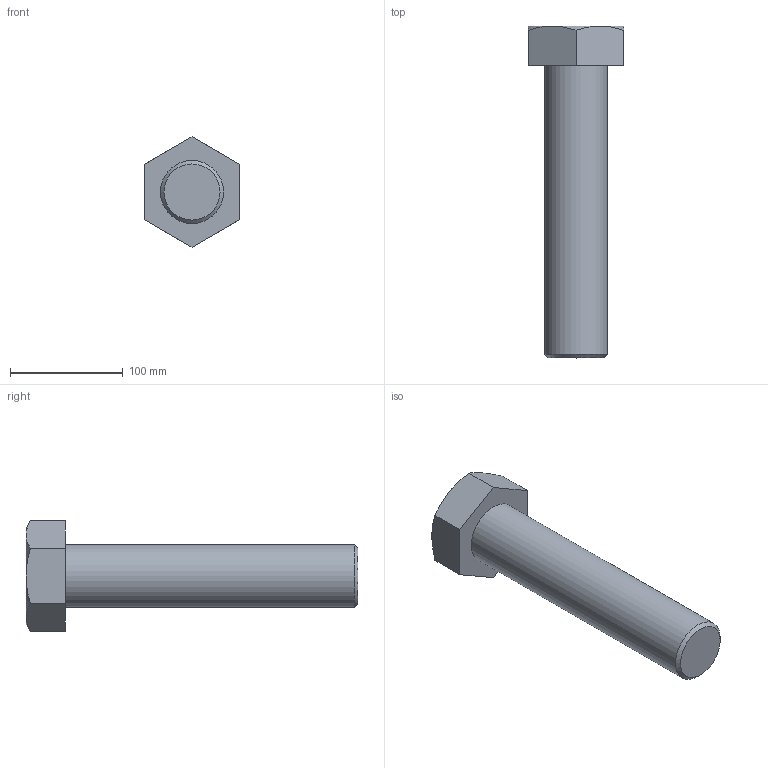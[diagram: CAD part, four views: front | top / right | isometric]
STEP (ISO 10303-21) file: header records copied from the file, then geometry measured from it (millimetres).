
FILE_DESCRIPTION(/* description */ (''),/* implementation_level */ '2;1');
FILE_NAME(/* name */ 'C:\Users\unitec\Documents\Inventor\各種小物\JIS\JIS B 1180 六角ボルト 等級C\hbc56\M56x260.stp',/* time_stamp */ '2015-02-13T15:00:24+09:00',/* author */ ('unitec'),/* organization */ (''),/* preprocessor_version */ 'ST-DEVELOPER v15.2',/* originating_system */ 'Autodesk Inventor 2014',/* authorisation */ '');
FILE_SCHEMA (('AUTOMOTIVE_DESIGN { 1 0 10303 214 3 1 1 }'));
Length unit declared in the file: millimetre
Products named in the file (1): M56x260
Bounding box: 85 x 295 x 98.15 mm (x, y, z)
Volume: 857913 mm3; surface area: 67939.4 mm2
Topology: 1 solids, 1 shells, 17 faces, 35 edges, 21 vertices
Faces by surface type: plane 9, cone 7, cylinder 1
Full cylindrical faces by diameter (mm): 56 x1
Entity records: 441 total; most frequent: CARTESIAN_POINT 96, ORIENTED_EDGE 66, DIRECTION 66, EDGE_CURVE 33, AXIS2_PLACEMENT_3D 27, VERTEX_POINT 21, EDGE_LOOP 20, ADVANCED_FACE 17
